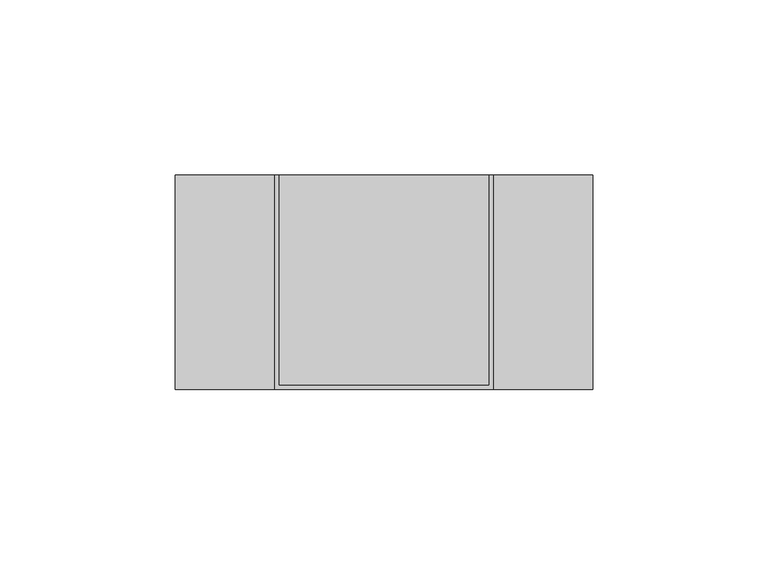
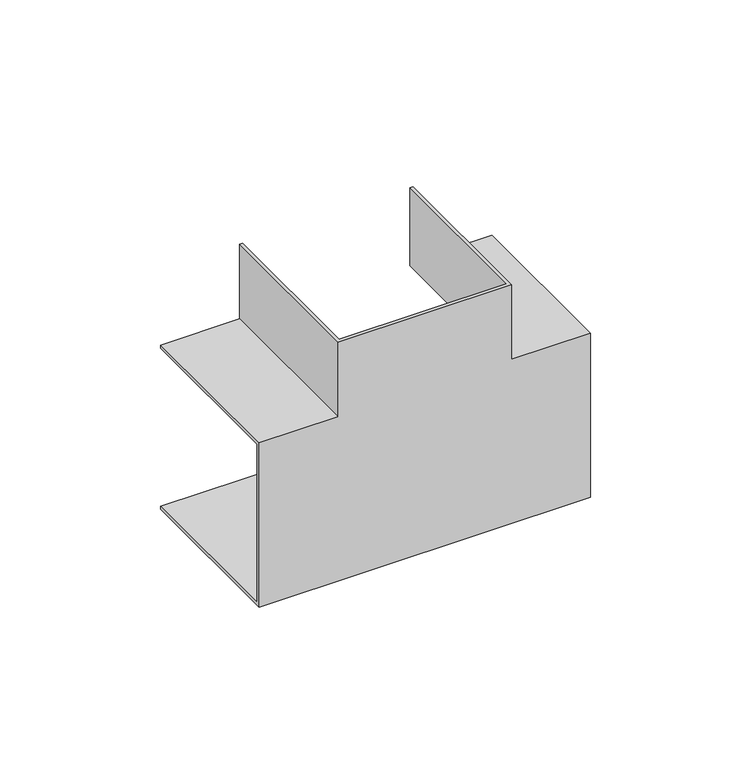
"""IFC4 building model written with IfcOpenShell, lengths in millimetres: proxy geometry, Угол_Т-образный КМТ : Угол Т-образный КМТ 100х40."""

from ifc_helpers import new_model, si_unit, origin, place, context, project, spatial, faceted_brep, source, transform, mapped, element, save


def generic_models_9aea59b1(model_context):
    return source(origin(), model_context, "Body", "Brep", [
        faceted_brep([(-31.2, -61.2, 31.2), (-59.5, -61.2, 31.2), (-59.5, -61.2, -31.2), (59.5, -61.2, -31.2), (59.5, -61.2, 31.2), (31.2, -61.2, 31.2), (31.2, -61.2, 59.5), (-31.2, -61.2, 59.5), (-31.2, 0.0, 31.2), (-31.2, 0.0, 59.5), (-30.0, 0.0, 59.5), (-30.0, 0.0, 30.0), (-59.5, 0.0, 30.0), (-59.5, 0.0, 31.2), (31.2, 0.0, 59.5), (31.2, 0.0, 31.2), (59.5, 0.0, 31.2), (59.5, 0.0, 30.0), (30.0, 0.0, 30.0), (30.0, 0.0, 59.5), (59.5, 0.0, -31.2), (-59.5, 0.0, -31.2), (-59.5, 0.0, -30.0), (-30.0, 0.0, -30.0), (30.0, 0.0, -30.0), (59.5, 0.0, -30.0), (-59.5, -60.0, 30.0), (-59.5, -60.0, -30.0), (59.5, -60.0, -30.0), (59.5, -60.0, 30.0), (30.0, -60.0, 59.5), (-30.0, -60.0, 59.5), (-30.0, -60.0, 30.0), (30.0, -60.0, 30.0)], [[[0, 1, 2, 3, 4, 5, 6, 7]], [[8, 9, 10, 11, 12, 13]], [[14, 15, 16, 17, 18, 19]], [[20, 21, 22, 23, 24, 25]], [[1, 0, 8, 13]], [[2, 1, 13, 12, 26, 27, 22, 21]], [[3, 2, 21, 20]], [[4, 3, 20, 25, 28, 29, 17, 16]], [[5, 4, 16, 15]], [[6, 5, 15, 14]], [[7, 6, 14, 19, 30, 31, 10, 9]], [[0, 7, 9, 8]], [[27, 26, 32, 31, 30, 33, 29, 28]], [[22, 27, 28, 25, 24, 23]], [[26, 12, 11, 32]], [[17, 29, 33, 18]], [[33, 30, 19, 18]], [[31, 32, 11, 10]]]),
    ])


if __name__ == "__main__":
    model = new_model("IFC4")
    model_context = context("Model", 3, world=origin())
    ifc_project = project(units=[si_unit("LENGTHUNIT", "METRE", prefix="MILLI")], contexts=[model_context])
    site = spatial("IfcSite", under=ifc_project)
    building = spatial("IfcBuilding", under=site)
    placement = place(None, origin())
    generic_models_shape = generic_models_9aea59b1(model_context)
    element("IfcBuildingElementProxy", 1, Name="Угол_Т-образный КМТ : Угол Т-образный КМТ 100х40", ObjectType="Угол_Т-образный КМТ : Угол Т-образный КМТ 100х40", at=placement, inside=building, context=model_context, shape_type="MappedRepresentation", body=[
        mapped(generic_models_shape, transform((0.0, 0.0, 0.0), x_axis=(1.0, 0.0, 0.0), y_axis=(0.0, 1.0, 0.0), z_axis=(0.0, 0.0, 1.0))),
    ])
    save(model, "model.ifc")
